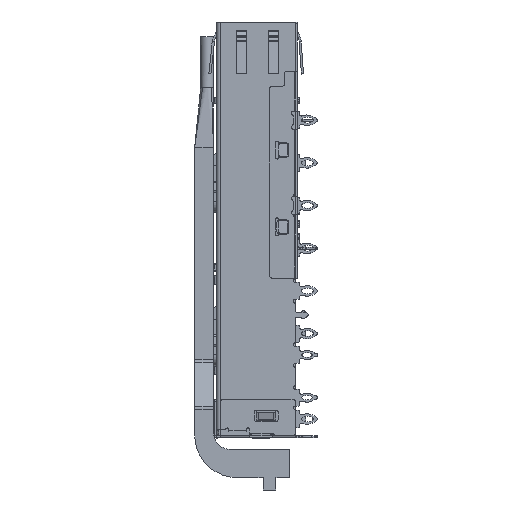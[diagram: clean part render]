
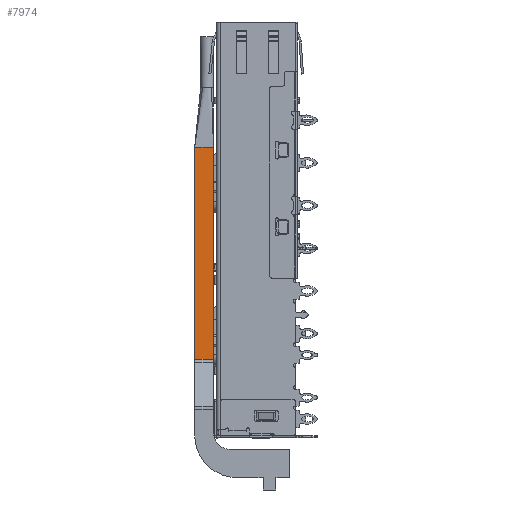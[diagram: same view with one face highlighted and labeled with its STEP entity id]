
A CAD part, left-side view. The second image highlights one B-rep face of the part: STEP entity #7974.
In plain terms, the highlighted planar face has unit normal (-1, 0, 0).
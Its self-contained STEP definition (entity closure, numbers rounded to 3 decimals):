
#2898=PLANE('',#92781);
#7974=ADVANCED_FACE('',(#14276),#2898,.F.);
#14276=FACE_OUTER_BOUND('',#19275,.T.);
#19275=EDGE_LOOP('',(#60253,#60254,#60255,#60256));
#27552=LINE('',#144380,#35954);
#27578=LINE('',#144554,#35980);
#27579=LINE('',#144556,#35981);
#27580=LINE('',#144558,#35982);
#35954=VECTOR('',#117165,1.);
#35980=VECTOR('',#117221,1.);
#35981=VECTOR('',#117222,1.);
#35982=VECTOR('',#117223,1.);
#60253=ORIENTED_EDGE('',*,*,#80763,.F.);
#60254=ORIENTED_EDGE('',*,*,#80764,.T.);
#60255=ORIENTED_EDGE('',*,*,#80765,.F.);
#60256=ORIENTED_EDGE('',*,*,#80728,.T.);
#68508=VERTEX_POINT('',#144239);
#68512=VERTEX_POINT('',#144340);
#68540=VERTEX_POINT('',#144555);
#68541=VERTEX_POINT('',#144557);
#80728=EDGE_CURVE('',#68512,#68508,#27552,.T.);
#80763=EDGE_CURVE('',#68540,#68508,#27578,.T.);
#80764=EDGE_CURVE('',#68540,#68541,#27579,.T.);
#80765=EDGE_CURVE('',#68512,#68541,#27580,.T.);
#92781=AXIS2_PLACEMENT_3D('',#144559,#117224,#117225);
#117165=DIRECTION('',(0.,1.,0.));
#117221=DIRECTION('',(0.,0.,1.));
#117222=DIRECTION('',(0.,-1.,0.));
#117223=DIRECTION('',(0.,0.,-1.));
#117224=DIRECTION('',(1.,0.,0.));
#117225=DIRECTION('',(0.,0.,-1.));
#144239=CARTESIAN_POINT('',(-39.67,2.57,-14.7));
#144340=CARTESIAN_POINT('',(-39.67,0.37,-14.7));
#144380=CARTESIAN_POINT('',(-39.67,-8.552,-14.7));
#144554=CARTESIAN_POINT('',(-39.67,2.57,-39.67));
#144555=CARTESIAN_POINT('',(-39.67,2.57,-39.493));
#144556=CARTESIAN_POINT('',(-39.67,0.37,-39.493));
#144557=CARTESIAN_POINT('',(-39.67,0.37,-39.493));
#144558=CARTESIAN_POINT('',(-39.67,0.37,-39.67));
#144559=CARTESIAN_POINT('',(-39.67,-8.552,-39.67));
